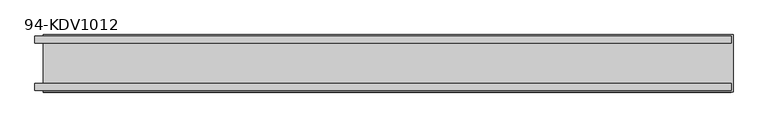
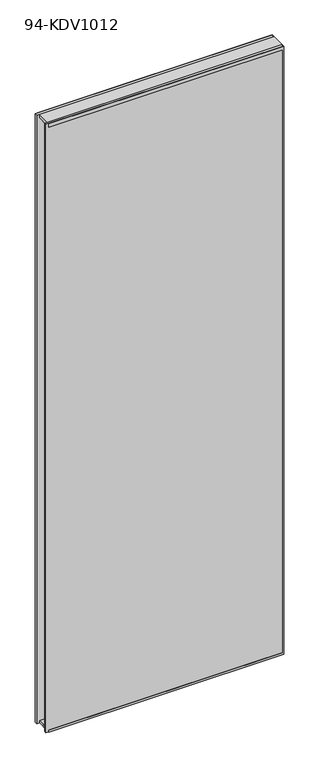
"""IFC4 building model written with IfcOpenShell, lengths in millimetres: plate geometry, PNX_VITRE_DV : 94-KDV1012."""

from ifc_helpers import new_model, si_unit, frame, origin, origin_with_axes, place, context, project, spatial, polyline, outline, extrude, source, transform, mapped, element, save


def plate_94_kdv1012_4d463fa8(model_context):
    return source(origin(), model_context, "Body", "SweptSolid", [
        extrude(outline(polyline([(496.6, -39.5), (-511.6, -39.5), (-511.6, -29.5), (496.6, -29.5), (496.6, -39.5)])), origin_with_axes(), (0.0, 0.0, 1.0), 2739.0),
        extrude(outline(polyline([(496.6, 29.5), (-511.6, 29.5), (-511.6, 39.5), (496.6, 39.5), (496.6, 29.5)])), origin_with_axes(), (0.0, 0.0, 1.0), 2739.0),
        extrude(outline(polyline([(2739.0, 499.6), (2739.0, -499.6), (2724.0, -499.6), (2724.0, 496.6), (9.0, 496.6), (9.0, -499.6), (0.0, -499.6), (0.0, 499.6), (2739.0, 499.6)])), frame((0.0, -41.5, 0.0), z_axis=(0.0, 1.0, 0.0), x_axis=(0.0, 0.0, 1.0)), (0.0, 0.0, 1.0), 83.0),
    ])


if __name__ == "__main__":
    model = new_model("IFC4")
    model_context = context("Model", 3, world=origin())
    ifc_project = project(units=[si_unit("LENGTHUNIT", "METRE", prefix="MILLI")], contexts=[model_context])
    site = spatial("IfcSite", under=ifc_project)
    building = spatial("IfcBuilding", under=site)
    placement = place(None, origin())
    plate_94_kdv1012_shape = plate_94_kdv1012_4d463fa8(model_context)
    element("IfcPlate", 1, ObjectType="PNX_VITRE_DV : 94-KDV1012", at=placement, inside=building, context=model_context, shape_type="MappedRepresentation", body=[
        mapped(plate_94_kdv1012_shape, transform((0.0, 0.0, 0.0), x_axis=(1.0, 0.0, 0.0), y_axis=(0.0, 1.0, 0.0), z_axis=(0.0, 0.0, 1.0))),
    ])
    save(model, "model.ifc")
